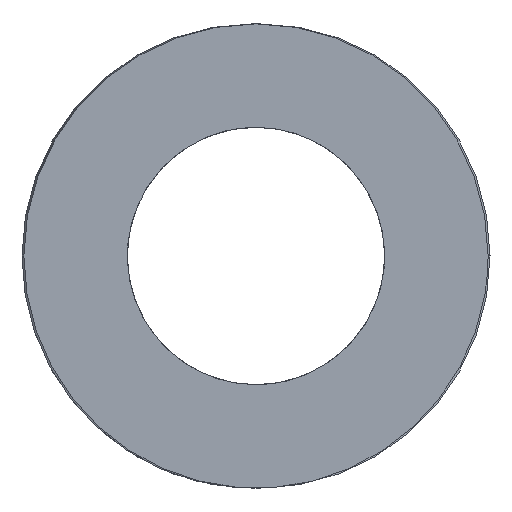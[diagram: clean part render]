
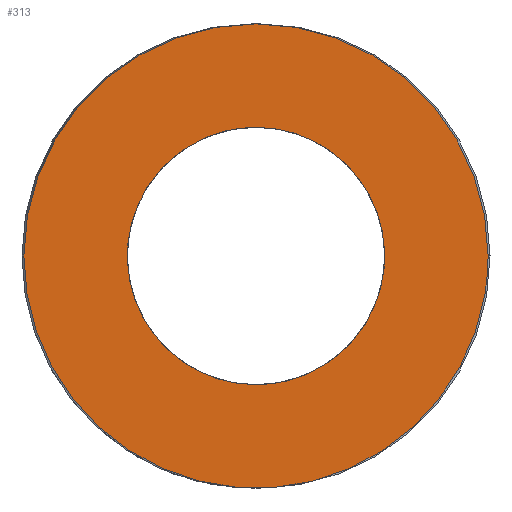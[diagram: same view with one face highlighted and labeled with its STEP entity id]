
A CAD part, left-side view. The second image highlights one B-rep face of the part: STEP entity #313.
In plain terms, the highlighted planar face has unit normal (-1, 0, 0).
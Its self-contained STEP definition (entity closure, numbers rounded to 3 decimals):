
#63=CARTESIAN_POINT('Vertex',(0.,9.2,0.)) ;
#89=CARTESIAN_POINT('Vertex',(0.,-9.2,0.)) ;
#93=CARTESIAN_POINT('Control Point',(0.,9.2,0.)) ;
#94=CARTESIAN_POINT('Control Point',(0.,9.2,-1.445)) ;
#95=CARTESIAN_POINT('Control Point',(0.,8.916,-2.89)) ;
#96=CARTESIAN_POINT('Control Point',(0.,8.348,-4.261)) ;
#97=CARTESIAN_POINT('Control Point',(0.,6.706,-6.706)) ;
#98=CARTESIAN_POINT('Control Point',(0.,4.261,-8.348)) ;
#99=CARTESIAN_POINT('Control Point',(0.,2.89,-8.916)) ;
#100=CARTESIAN_POINT('Control Point',(0.,0.,-9.484)) ;
#101=CARTESIAN_POINT('Control Point',(0.,-2.89,-8.916)) ;
#102=CARTESIAN_POINT('Control Point',(0.,-4.261,-8.348)) ;
#103=CARTESIAN_POINT('Control Point',(0.,-6.706,-6.706)) ;
#104=CARTESIAN_POINT('Control Point',(0.,-8.348,-4.261)) ;
#105=CARTESIAN_POINT('Control Point',(0.,-8.916,-2.89)) ;
#106=CARTESIAN_POINT('Control Point',(0.,-9.2,-1.445)) ;
#107=CARTESIAN_POINT('Control Point',(0.,-9.2,0.)) ;
#121=CARTESIAN_POINT('Axis2P3D Location',(0.,0.,0.)) ;
#250=CARTESIAN_POINT('Axis2P3D Location',(0.,4.6,0.)) ;
#260=CARTESIAN_POINT('Control Point',(0.,0.,-5.1)) ;
#261=CARTESIAN_POINT('Control Point',(0.,0.553,-5.1)) ;
#262=CARTESIAN_POINT('Control Point',(0.,1.106,-5.025)) ;
#263=CARTESIAN_POINT('Control Point',(0.,1.646,-4.875)) ;
#264=CARTESIAN_POINT('Control Point',(0.,2.671,-4.432)) ;
#265=CARTESIAN_POINT('Control Point',(0.,3.541,-3.733)) ;
#266=CARTESIAN_POINT('Control Point',(0.,3.926,-3.326)) ;
#267=CARTESIAN_POINT('Control Point',(0.,4.575,-2.418)) ;
#268=CARTESIAN_POINT('Control Point',(0.,4.96,-1.37)) ;
#269=CARTESIAN_POINT('Control Point',(0.,5.079,-0.822)) ;
#270=CARTESIAN_POINT('Control Point',(0.,5.167,0.291)) ;
#271=CARTESIAN_POINT('Control Point',(0.,4.955,1.387)) ;
#272=CARTESIAN_POINT('Control Point',(0.,4.775,1.917)) ;
#273=CARTESIAN_POINT('Control Point',(0.,4.275,2.916)) ;
#274=CARTESIAN_POINT('Control Point',(0.,3.528,3.745)) ;
#275=CARTESIAN_POINT('Control Point',(0.,3.1,4.106)) ;
#276=CARTESIAN_POINT('Control Point',(0.,2.255,4.642)) ;
#277=CARTESIAN_POINT('Control Point',(0.,1.309,4.959)) ;
#278=CARTESIAN_POINT('Control Point',(0.,0.877,5.053)) ;
#279=CARTESIAN_POINT('Control Point',(0.,0.439,5.1)) ;
#280=CARTESIAN_POINT('Control Point',(0.,0.,5.1)) ;
#281=CARTESIAN_POINT('Vertex',(0.,0.,-5.1)) ;
#283=CARTESIAN_POINT('Vertex',(0.,0.,5.1)) ;
#287=CARTESIAN_POINT('Control Point',(0.,0.,5.1)) ;
#288=CARTESIAN_POINT('Control Point',(0.,-0.553,5.1)) ;
#289=CARTESIAN_POINT('Control Point',(0.,-1.106,5.025)) ;
#290=CARTESIAN_POINT('Control Point',(0.,-1.646,4.875)) ;
#291=CARTESIAN_POINT('Control Point',(0.,-2.671,4.432)) ;
#292=CARTESIAN_POINT('Control Point',(0.,-3.541,3.733)) ;
#293=CARTESIAN_POINT('Control Point',(0.,-3.926,3.326)) ;
#294=CARTESIAN_POINT('Control Point',(0.,-4.575,2.418)) ;
#295=CARTESIAN_POINT('Control Point',(0.,-4.96,1.37)) ;
#296=CARTESIAN_POINT('Control Point',(0.,-5.079,0.822)) ;
#297=CARTESIAN_POINT('Control Point',(0.,-5.167,-0.291)) ;
#298=CARTESIAN_POINT('Control Point',(0.,-4.955,-1.387)) ;
#299=CARTESIAN_POINT('Control Point',(0.,-4.775,-1.917)) ;
#300=CARTESIAN_POINT('Control Point',(0.,-4.275,-2.916)) ;
#301=CARTESIAN_POINT('Control Point',(0.,-3.528,-3.745)) ;
#302=CARTESIAN_POINT('Control Point',(0.,-3.1,-4.106)) ;
#303=CARTESIAN_POINT('Control Point',(0.,-2.255,-4.642)) ;
#304=CARTESIAN_POINT('Control Point',(0.,-1.309,-4.959)) ;
#305=CARTESIAN_POINT('Control Point',(0.,-0.877,-5.053)) ;
#306=CARTESIAN_POINT('Control Point',(0.,-0.439,-5.1)) ;
#307=CARTESIAN_POINT('Control Point',(0.,0.,-5.1)) ;
#122=DIRECTION('Axis2P3D Direction',(1.,-0.,0.)) ;
#251=DIRECTION('Axis2P3D Direction',(-1.,0.,0.)) ;
#252=DIRECTION('Axis2P3D XDirection',(0.,1.,0.)) ;
#123=AXIS2_PLACEMENT_3D('Circle Axis2P3D',#121,#122,$) ;
#253=AXIS2_PLACEMENT_3D('Plane Axis2P3D',#250,#251,#252) ;
#256=ORIENTED_EDGE('',*,*,#108,.T.) ;
#257=ORIENTED_EDGE('',*,*,#125,.T.) ;
#310=ORIENTED_EDGE('',*,*,#285,.T.) ;
#311=ORIENTED_EDGE('',*,*,#308,.T.) ;
#312=FACE_BOUND('',#309,.T.) ;
#313=ADVANCED_FACE('392-B20-115',(#258,#312),#254,.T.) ;
#92=B_SPLINE_CURVE_WITH_KNOTS('',5,(#93,#94,#95,#96,#97,#98,#99,#100,#101,#102,#103,#104,#105,#106,#107),.UNSPECIFIED.,.F.,.U.,(6,3,3,3,6),(-14.451,-7.226,0.,7.226,14.451),.UNSPECIFIED.) ;
#259=B_SPLINE_CURVE_WITH_KNOTS('',5,(#260,#261,#262,#263,#264,#265,#266,#267,#268,#269,#270,#271,#272,#273,#274,#275,#276,#277,#278,#279,#280),.UNSPECIFIED.,.F.,.U.,(6,3,3,3,3,3,6),(0.,3.911,7.823,11.734,15.646,19.557,22.658),.UNSPECIFIED.) ;
#286=B_SPLINE_CURVE_WITH_KNOTS('',5,(#287,#288,#289,#290,#291,#292,#293,#294,#295,#296,#297,#298,#299,#300,#301,#302,#303,#304,#305,#306,#307),.UNSPECIFIED.,.F.,.U.,(6,3,3,3,3,3,6),(0.,3.911,7.823,11.734,15.646,19.557,22.658),.UNSPECIFIED.) ;
#124=CIRCLE('generated circle',#123,9.2) ;
#108=EDGE_CURVE('',#64,#90,#92,.T.) ;
#125=EDGE_CURVE('',#90,#64,#124,.F.) ;
#285=EDGE_CURVE('',#282,#284,#259,.T.) ;
#308=EDGE_CURVE('',#284,#282,#286,.T.) ;
#255=EDGE_LOOP('',(#256,#257)) ;
#309=EDGE_LOOP('',(#310,#311)) ;
#258=FACE_OUTER_BOUND('',#255,.T.) ;
#254=PLANE('Plane',#253) ;
#64=VERTEX_POINT('',#63) ;
#90=VERTEX_POINT('',#89) ;
#282=VERTEX_POINT('',#281) ;
#284=VERTEX_POINT('',#283) ;
